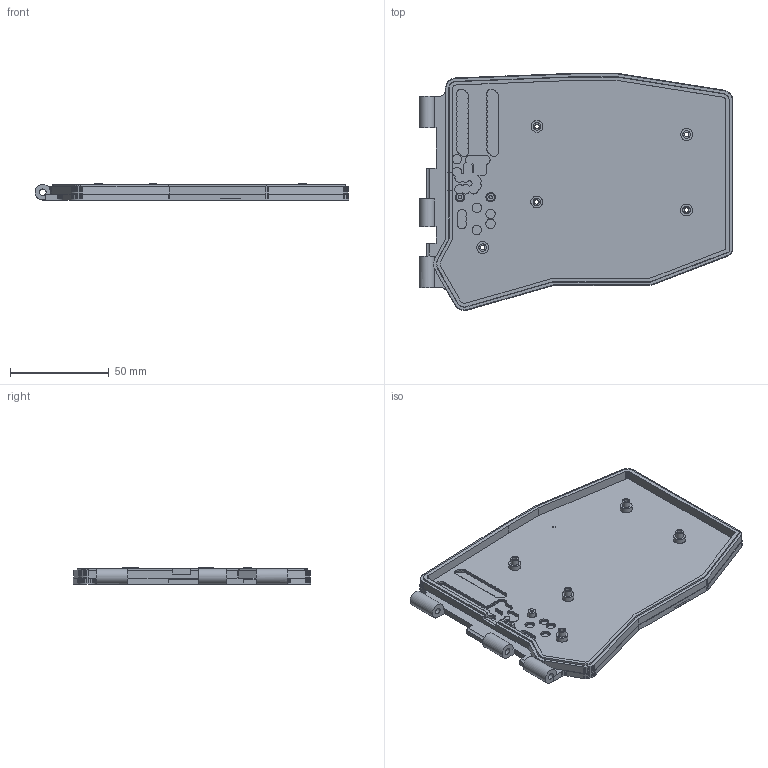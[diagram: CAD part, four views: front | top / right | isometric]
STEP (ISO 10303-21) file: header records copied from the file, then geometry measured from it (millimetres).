
FILE_DESCRIPTION(('Open CASCADE Model'),'2;1');
FILE_NAME('Open CASCADE Shape Model','2026-10-07T17:16:41',('Author'),( 'Open CASCADE'),'Open CASCADE STEP processor 8.0','build123d', 'Unknown');
FILE_SCHEMA(('AUTOMOTIVE_DESIGN { 1 0 10303 214 1 1 1 1 }'));
Products named in the file (1): COMPOUND
Bounding box: 158.87 x 120.15 x 8.25 mm (x, y, z)
Volume: 55082.9 mm3; surface area: 44798.9 mm2
Topology: 1 solids, 1 shells, 1301 faces, 3809 edges, 2540 vertices
Faces by surface type: plane 1269, cylinder 32
Full cylindrical faces by diameter (mm): 1.7 x4, 2.3 x5, 3.2 x5, 3.3 x3, 3.8 x7, 6 x5
Entity records: 89542 total; most frequent: CARTESIAN_POINT 17729, DIRECTION 11726, LINE 8884, VECTOR 8884, ORIENTED_EDGE 7618, PCURVE 7618, DEFINITIONAL_REPRESENTATION 7618, EDGE_CURVE 3809
